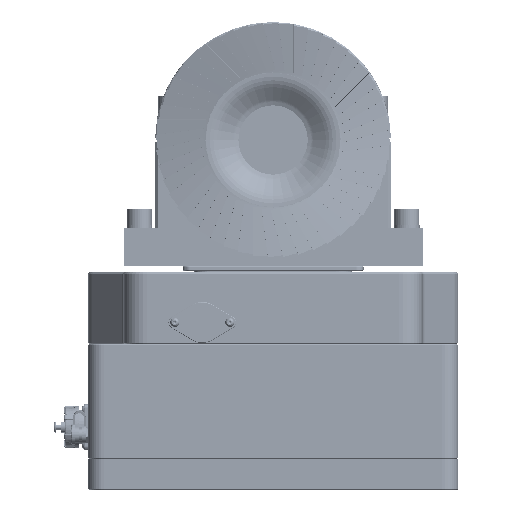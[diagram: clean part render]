
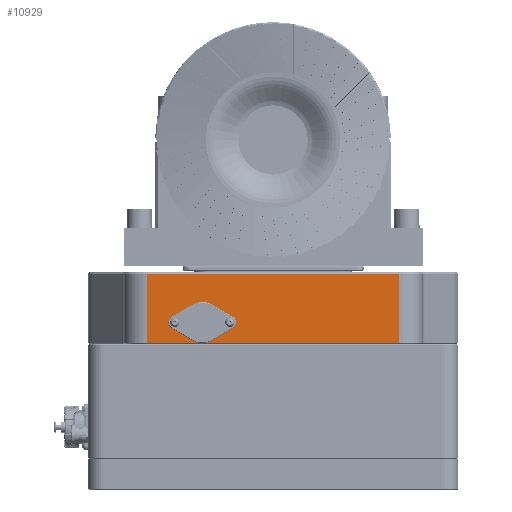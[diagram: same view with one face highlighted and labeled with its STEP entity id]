
A CAD part, front view. The second image highlights one B-rep face of the part: STEP entity #10929.
In plain terms, the highlighted planar face has unit normal (0, -1, 0) as drawn and (1, 0, 0) by its records, which use the part's own axes.
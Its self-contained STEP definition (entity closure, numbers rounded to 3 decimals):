
#3217 = DIRECTION ( 'NONE',  ( 0., 0., -1. ) ) ;
#5081 = AXIS2_PLACEMENT_3D ( 'NONE', #58952, #246072, #241990 ) ;
#7711 = AXIS2_PLACEMENT_3D ( 'NONE', #78209, #140631, #99983 ) ;
#10929 = ADVANCED_FACE ( 'NONE', ( #262740, #59270, #164965, #37584 ), #124388, .F. ) ;
#19704 = LINE ( 'NONE', #60330, #195784 ) ;
#19803 = CIRCLE ( 'NONE', #54418, 11.5 ) ;
#19818 = ORIENTED_EDGE ( 'NONE', *, *, #58321, .F. ) ;
#30860 = DIRECTION ( 'NONE',  ( 1., 0., 0. ) ) ;
#35273 = LINE ( 'NONE', #268463, #192733 ) ;
#37193 = LINE ( 'NONE', #56170, #103280 ) ;
#37584 = FACE_OUTER_BOUND ( 'NONE', #133545, .T. ) ;
#39204 = CIRCLE ( 'NONE', #108545, 1.25 ) ;
#39966 = CARTESIAN_POINT ( 'NONE',  ( 46.542, 55.181, 195.25 ) ) ;
#44515 = EDGE_CURVE ( 'NONE', #64248, #47871, #67913, .T. ) ;
#47871 = VERTEX_POINT ( 'NONE', #224672 ) ;
#52315 = AXIS2_PLACEMENT_3D ( 'NONE', #165995, #106382, #3217 ) ;
#53072 = EDGE_LOOP ( 'NONE', ( #266106, #180450 ) ) ;
#54418 = AXIS2_PLACEMENT_3D ( 'NONE', #223003, #142992, #79273 ) ;
#54709 = VERTEX_POINT ( 'NONE', #147019 ) ;
#56170 = CARTESIAN_POINT ( 'NONE',  ( 46.542, -87.319, 209.5 ) ) ;
#56324 = AXIS2_PLACEMENT_3D ( 'NONE', #124973, #103285, #104608 ) ;
#58321 = EDGE_CURVE ( 'NONE', #242302, #255951, #39204, .T. ) ;
#58952 = CARTESIAN_POINT ( 'NONE',  ( 46.542, 55.181, 196.5 ) ) ;
#59270 = FACE_BOUND ( 'NONE', #53072, .T. ) ;
#59438 = EDGE_CURVE ( 'NONE', #255951, #242302, #91836, .T. ) ;
#60330 = CARTESIAN_POINT ( 'NONE',  ( 46.542, 72.681, 165.5 ) ) ;
#64248 = VERTEX_POINT ( 'NONE', #113739 ) ;
#67913 = LINE ( 'NONE', #147995, #81881 ) ;
#68800 = EDGE_CURVE ( 'NONE', #116465, #88472, #247270, .T. ) ;
#69380 = ORIENTED_EDGE ( 'NONE', *, *, #44515, .T. ) ;
#73990 = EDGE_CURVE ( 'NONE', #117801, #196657, #19803, .T. ) ;
#78209 = CARTESIAN_POINT ( 'NONE',  ( 46.542, 72.681, 210. ) ) ;
#79273 = DIRECTION ( 'NONE',  ( 0., 0., -1. ) ) ;
#79312 = ORIENTED_EDGE ( 'NONE', *, *, #73990, .F. ) ;
#81311 = DIRECTION ( 'NONE',  ( 0., 0., -1. ) ) ;
#81881 = VECTOR ( 'NONE', #173675, 1000. ) ;
#84032 = EDGE_CURVE ( 'NONE', #196657, #117801, #126661, .T. ) ;
#86924 = CARTESIAN_POINT ( 'NONE',  ( 46.542, 37.681, 185. ) ) ;
#88472 = VERTEX_POINT ( 'NONE', #211070 ) ;
#88704 = EDGE_CURVE ( 'NONE', #47871, #163140, #19704, .T. ) ;
#90707 = CARTESIAN_POINT ( 'NONE',  ( 46.542, 20.181, 195.25 ) ) ;
#91836 = CIRCLE ( 'NONE', #5081, 1.25 ) ;
#99983 = DIRECTION ( 'NONE',  ( 0., 0., 1. ) ) ;
#103280 = VECTOR ( 'NONE', #266372, 1000. ) ;
#103285 = DIRECTION ( 'NONE',  ( 1., 0., 0. ) ) ;
#104608 = DIRECTION ( 'NONE',  ( 0., 0., -1. ) ) ;
#105705 = DIRECTION ( 'NONE',  ( 0., 0., -1. ) ) ;
#106382 = DIRECTION ( 'NONE',  ( 1., 0., 0. ) ) ;
#108545 = AXIS2_PLACEMENT_3D ( 'NONE', #257393, #30860, #239678 ) ;
#110717 = CARTESIAN_POINT ( 'NONE',  ( 46.542, 72.681, 165.5 ) ) ;
#113739 = CARTESIAN_POINT ( 'NONE',  ( 46.542, -87.319, 209.5 ) ) ;
#116465 = VERTEX_POINT ( 'NONE', #90707 ) ;
#117801 = VERTEX_POINT ( 'NONE', #147005 ) ;
#124388 = PLANE ( 'NONE',  #7711 ) ;
#124973 = CARTESIAN_POINT ( 'NONE',  ( 46.542, 20.181, 196.5 ) ) ;
#126307 = CARTESIAN_POINT ( 'NONE',  ( 46.542, 55.181, 197.75 ) ) ;
#126661 = CIRCLE ( 'NONE', #139574, 11.5 ) ;
#133545 = EDGE_LOOP ( 'NONE', ( #206271, #198771, #69380, #234746 ) ) ;
#139574 = AXIS2_PLACEMENT_3D ( 'NONE', #224965, #250734, #105705 ) ;
#140631 = DIRECTION ( 'NONE',  ( -1., 0., 0. ) ) ;
#142992 = DIRECTION ( 'NONE',  ( 1., 0., 0. ) ) ;
#147005 = CARTESIAN_POINT ( 'NONE',  ( 46.542, 37.681, 208. ) ) ;
#147019 = CARTESIAN_POINT ( 'NONE',  ( 46.542, 72.681, 209.5 ) ) ;
#147995 = CARTESIAN_POINT ( 'NONE',  ( 46.542, -87.319, 210. ) ) ;
#160776 = EDGE_CURVE ( 'NONE', #54709, #64248, #37193, .T. ) ;
#163140 = VERTEX_POINT ( 'NONE', #110717 ) ;
#163388 = DIRECTION ( 'NONE',  ( 0., 1., 0. ) ) ;
#164965 = FACE_BOUND ( 'NONE', #258827, .T. ) ;
#165995 = CARTESIAN_POINT ( 'NONE',  ( 46.542, 20.181, 196.5 ) ) ;
#173221 = CIRCLE ( 'NONE', #56324, 1.25 ) ;
#173481 = EDGE_CURVE ( 'NONE', #88472, #116465, #173221, .T. ) ;
#173675 = DIRECTION ( 'NONE',  ( 0., 0., -1. ) ) ;
#180450 = ORIENTED_EDGE ( 'NONE', *, *, #173481, .F. ) ;
#192733 = VECTOR ( 'NONE', #81311, 1000. ) ;
#195784 = VECTOR ( 'NONE', #163388, 1000. ) ;
#196657 = VERTEX_POINT ( 'NONE', #86924 ) ;
#198771 = ORIENTED_EDGE ( 'NONE', *, *, #160776, .T. ) ;
#203874 = ORIENTED_EDGE ( 'NONE', *, *, #84032, .F. ) ;
#206271 = ORIENTED_EDGE ( 'NONE', *, *, #235093, .F. ) ;
#206588 = EDGE_LOOP ( 'NONE', ( #19818, #242266 ) ) ;
#211070 = CARTESIAN_POINT ( 'NONE',  ( 46.542, 20.181, 197.75 ) ) ;
#223003 = CARTESIAN_POINT ( 'NONE',  ( 46.542, 37.681, 196.5 ) ) ;
#224672 = CARTESIAN_POINT ( 'NONE',  ( 46.542, -87.319, 165.5 ) ) ;
#224965 = CARTESIAN_POINT ( 'NONE',  ( 46.542, 37.681, 196.5 ) ) ;
#234746 = ORIENTED_EDGE ( 'NONE', *, *, #88704, .T. ) ;
#235093 = EDGE_CURVE ( 'NONE', #54709, #163140, #35273, .T. ) ;
#239678 = DIRECTION ( 'NONE',  ( 0., 0., -1. ) ) ;
#241990 = DIRECTION ( 'NONE',  ( 0., 0., -1. ) ) ;
#242266 = ORIENTED_EDGE ( 'NONE', *, *, #59438, .F. ) ;
#242302 = VERTEX_POINT ( 'NONE', #39966 ) ;
#246072 = DIRECTION ( 'NONE',  ( 1., 0., 0. ) ) ;
#247270 = CIRCLE ( 'NONE', #52315, 1.25 ) ;
#250734 = DIRECTION ( 'NONE',  ( 1., 0., 0. ) ) ;
#255951 = VERTEX_POINT ( 'NONE', #126307 ) ;
#257393 = CARTESIAN_POINT ( 'NONE',  ( 46.542, 55.181, 196.5 ) ) ;
#258827 = EDGE_LOOP ( 'NONE', ( #203874, #79312 ) ) ;
#262740 = FACE_BOUND ( 'NONE', #206588, .T. ) ;
#266106 = ORIENTED_EDGE ( 'NONE', *, *, #68800, .F. ) ;
#266372 = DIRECTION ( 'NONE',  ( 0., -1., 0. ) ) ;
#268463 = CARTESIAN_POINT ( 'NONE',  ( 46.542, 72.681, 210. ) ) ;
